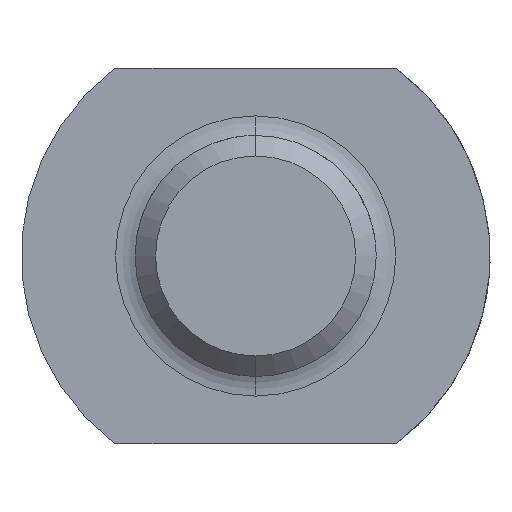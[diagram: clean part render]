
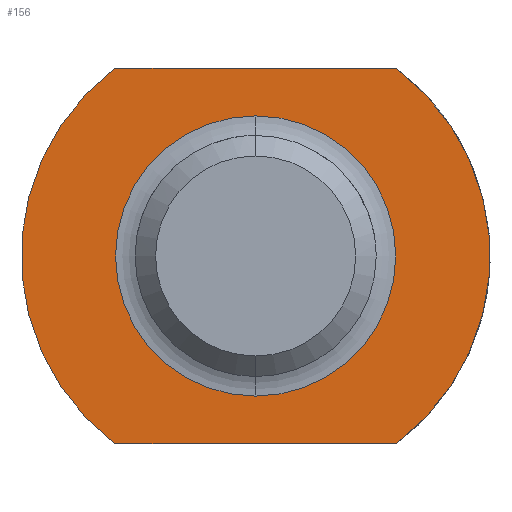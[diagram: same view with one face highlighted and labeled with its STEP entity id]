
A CAD part, left-side view. The second image highlights one B-rep face of the part: STEP entity #156.
In plain terms, the highlighted planar face has unit normal (-1, 0, 0).
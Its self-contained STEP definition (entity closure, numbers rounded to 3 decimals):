
#57=CARTESIAN_POINT('Line Origine',(0.,0.,-14.)) ;
#61=CARTESIAN_POINT('Vertex',(0.,-10.5,-14.)) ;
#63=CARTESIAN_POINT('Vertex',(0.,10.5,-14.)) ;
#92=CARTESIAN_POINT('Axis2P3D Location',(0.,10.458,0.)) ;
#97=CARTESIAN_POINT('Axis2P3D Location',(0.,0.,0.)) ;
#101=CARTESIAN_POINT('Vertex',(0.,10.5,14.)) ;
#104=CARTESIAN_POINT('Axis2P3D Location',(0.,0.,0.)) ;
#108=CARTESIAN_POINT('Vertex',(0.,-10.5,14.)) ;
#111=CARTESIAN_POINT('Line Origine',(0.,0.,14.)) ;
#122=CARTESIAN_POINT('Axis2P3D Location',(0.,0.,0.)) ;
#126=CARTESIAN_POINT('Vertex',(0.,10.458,0.)) ;
#128=CARTESIAN_POINT('Vertex',(0.,0.,10.458)) ;
#131=CARTESIAN_POINT('Axis2P3D Location',(0.,0.,0.)) ;
#135=CARTESIAN_POINT('Vertex',(0.,-10.458,0.)) ;
#138=CARTESIAN_POINT('Axis2P3D Location',(0.,0.,0.)) ;
#142=CARTESIAN_POINT('Vertex',(0.,0.,-10.458)) ;
#145=CARTESIAN_POINT('Axis2P3D Location',(0.,0.,0.)) ;
#58=DIRECTION('Vector Direction',(0.,1.,0.)) ;
#93=DIRECTION('Axis2P3D Direction',(1.,0.,-0.)) ;
#94=DIRECTION('Axis2P3D XDirection',(-0.,0.,-1.)) ;
#98=DIRECTION('Axis2P3D Direction',(1.,0.,-0.)) ;
#105=DIRECTION('Axis2P3D Direction',(1.,0.,-0.)) ;
#112=DIRECTION('Vector Direction',(0.,-1.,0.)) ;
#123=DIRECTION('Axis2P3D Direction',(1.,0.,-0.)) ;
#132=DIRECTION('Axis2P3D Direction',(1.,0.,-0.)) ;
#139=DIRECTION('Axis2P3D Direction',(1.,0.,-0.)) ;
#146=DIRECTION('Axis2P3D Direction',(1.,0.,-0.)) ;
#95=AXIS2_PLACEMENT_3D('Plane Axis2P3D',#92,#93,#94) ;
#99=AXIS2_PLACEMENT_3D('Circle Axis2P3D',#97,#98,$) ;
#106=AXIS2_PLACEMENT_3D('Circle Axis2P3D',#104,#105,$) ;
#124=AXIS2_PLACEMENT_3D('Circle Axis2P3D',#122,#123,$) ;
#133=AXIS2_PLACEMENT_3D('Circle Axis2P3D',#131,#132,$) ;
#140=AXIS2_PLACEMENT_3D('Circle Axis2P3D',#138,#139,$) ;
#147=AXIS2_PLACEMENT_3D('Circle Axis2P3D',#145,#146,$) ;
#117=ORIENTED_EDGE('',*,*,#103,.F.) ;
#118=ORIENTED_EDGE('',*,*,#65,.F.) ;
#119=ORIENTED_EDGE('',*,*,#110,.F.) ;
#120=ORIENTED_EDGE('',*,*,#115,.F.) ;
#151=ORIENTED_EDGE('',*,*,#130,.T.) ;
#152=ORIENTED_EDGE('',*,*,#137,.T.) ;
#153=ORIENTED_EDGE('',*,*,#144,.T.) ;
#154=ORIENTED_EDGE('',*,*,#149,.T.) ;
#155=FACE_BOUND('',#150,.T.) ;
#59=VECTOR('Line Direction',#58,1.) ;
#113=VECTOR('Line Direction',#112,1.) ;
#156=ADVANCED_FACE('AGS3411M18',(#121,#155),#96,.F.) ;
#100=CIRCLE('generated circle',#99,17.5) ;
#107=CIRCLE('generated circle',#106,17.5) ;
#125=CIRCLE('generated circle',#124,10.458) ;
#134=CIRCLE('generated circle',#133,10.458) ;
#141=CIRCLE('generated circle',#140,10.458) ;
#148=CIRCLE('generated circle',#147,10.458) ;
#65=EDGE_CURVE('',#62,#64,#60,.T.) ;
#103=EDGE_CURVE('',#64,#102,#100,.T.) ;
#110=EDGE_CURVE('',#109,#62,#107,.T.) ;
#115=EDGE_CURVE('',#102,#109,#114,.T.) ;
#130=EDGE_CURVE('',#127,#129,#125,.T.) ;
#137=EDGE_CURVE('',#129,#136,#134,.T.) ;
#144=EDGE_CURVE('',#136,#143,#141,.T.) ;
#149=EDGE_CURVE('',#143,#127,#148,.T.) ;
#116=EDGE_LOOP('',(#117,#118,#119,#120)) ;
#150=EDGE_LOOP('',(#151,#152,#153,#154)) ;
#121=FACE_OUTER_BOUND('',#116,.T.) ;
#60=LINE('Line',#57,#59) ;
#114=LINE('Line',#111,#113) ;
#96=PLANE('Plane',#95) ;
#62=VERTEX_POINT('',#61) ;
#64=VERTEX_POINT('',#63) ;
#102=VERTEX_POINT('',#101) ;
#109=VERTEX_POINT('',#108) ;
#127=VERTEX_POINT('',#126) ;
#129=VERTEX_POINT('',#128) ;
#136=VERTEX_POINT('',#135) ;
#143=VERTEX_POINT('',#142) ;
